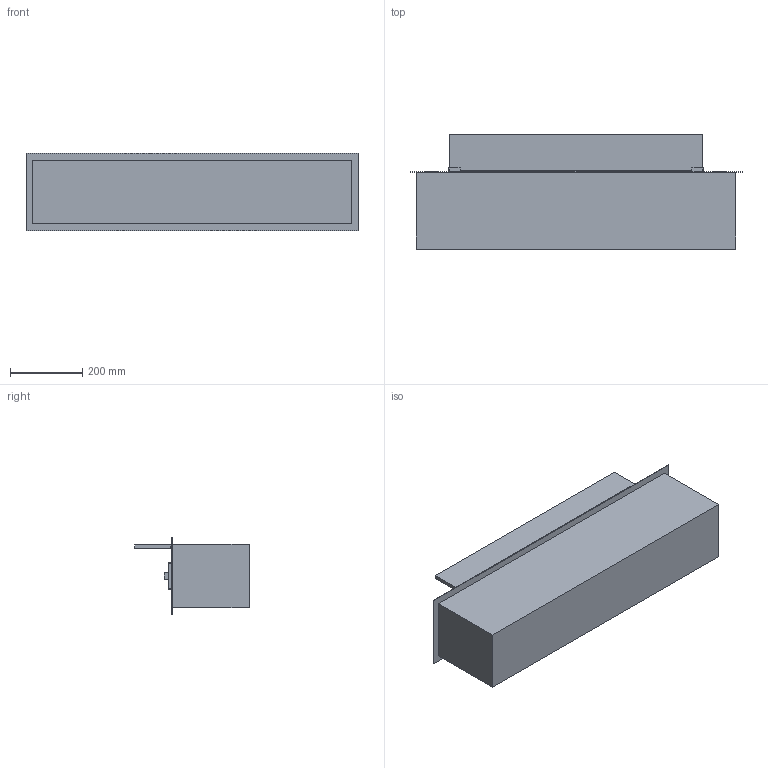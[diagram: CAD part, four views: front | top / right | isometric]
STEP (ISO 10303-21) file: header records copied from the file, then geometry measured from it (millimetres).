
FILE_DESCRIPTION (( 'STEP AP203' ), '1' );
FILE_NAME ('Hybrid mist 920.STEP', '2024-03-13T10:10:55', ( '' ), ( '' ), 'SwSTEP 2.0', 'SolidWorks 2023', '' );
FILE_SCHEMA (( 'CONFIG_CONTROL_DESIGN' ));
Length unit declared in the file: millimetre
Products named in the file (1): Hybrid mist 920
Bounding box: 920 x 317 x 215 mm (x, y, z)
Volume: 35112766 mm3; surface area: 1411894 mm2
Topology: 8 solids, 8 shells, 77 faces, 180 edges, 120 vertices
Faces by surface type: plane 77
Entity records: 2229 total; most frequent: CARTESIAN_POINT 378, ORIENTED_EDGE 360, DIRECTION 336, EDGE_CURVE 180, LINE 180, VECTOR 180, VERTEX_POINT 120, EDGE_LOOP 84
